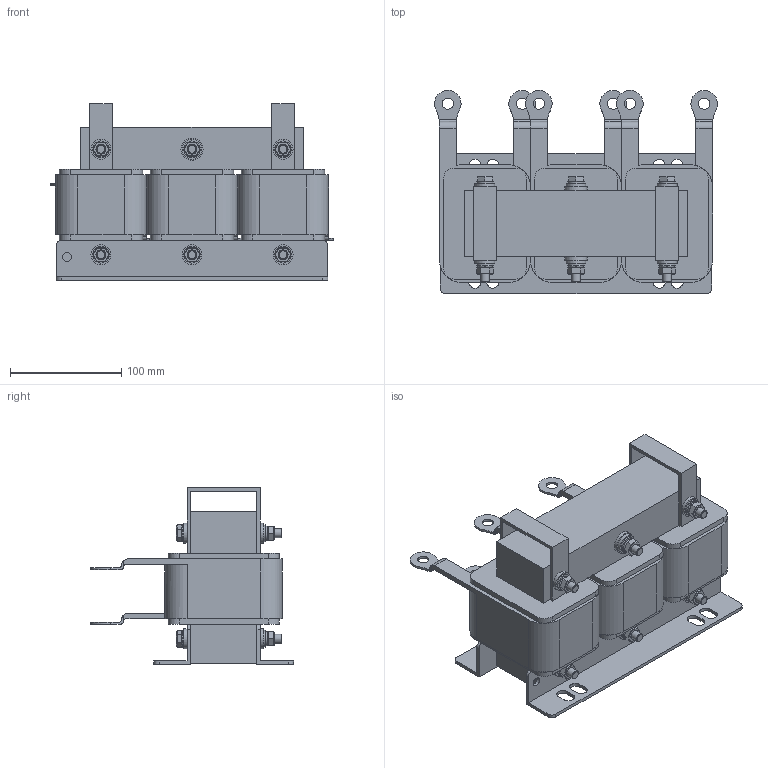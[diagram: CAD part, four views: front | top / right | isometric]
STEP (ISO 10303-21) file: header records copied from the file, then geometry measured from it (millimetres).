
FILE_DESCRIPTION(('STEP AP203'), '1');
FILE_NAME('栖闉罻 _ ISF-75_157-4', '', ('UNSPECIFIED'), ('UNSPECIFIED'), 'ASCON STEP Converter 1.6', 'ASCON Math Kernel', '');
FILE_SCHEMA(('CONFIG_CONTROL_DESIGN'));
Length unit declared in the file: millimetre
Products named in the file (13): ISF-75_157-4
Assembly tree (59 placements, depth 2):
  ISF-75_157-4
    ISF-75_157-4
    ISF-75_157-4  x2
    ISF-75_157-4  x6
    ISF-75_157-4  x3
    ISF-75_157-4
    ISF-75_157-4  x2
    ISF-75_157-4  x2
    ISF-75_157-4  x12
    ISF-75_157-4  x12
    ISF-75_157-4  x6
    ISF-75_157-4  x6
    ISF-75_157-4  x6
Bounding box: 255 x 183 x 159 mm (x, y, z)
Volume: 2617714.4 mm3; surface area: 434556.1 mm2
Topology: 59 solids, 59 shells, 684 faces, 1518 edges, 958 vertices
Faces by surface type: plane 464, cylinder 190, cone 18, torus 12
Full cylindrical faces by diameter (mm): 8 x56, 10 x6, 15 x12, 18 x12, 20 x2
Entity records: 7451 total; most frequent: CARTESIAN_POINT 1580, DIRECTION 944, ORIENTED_EDGE 766, EDGE_CURVE 383, AXIS2_PLACEMENT_3D 347, VERTEX_POINT 263, LINE 250, VECTOR 250
